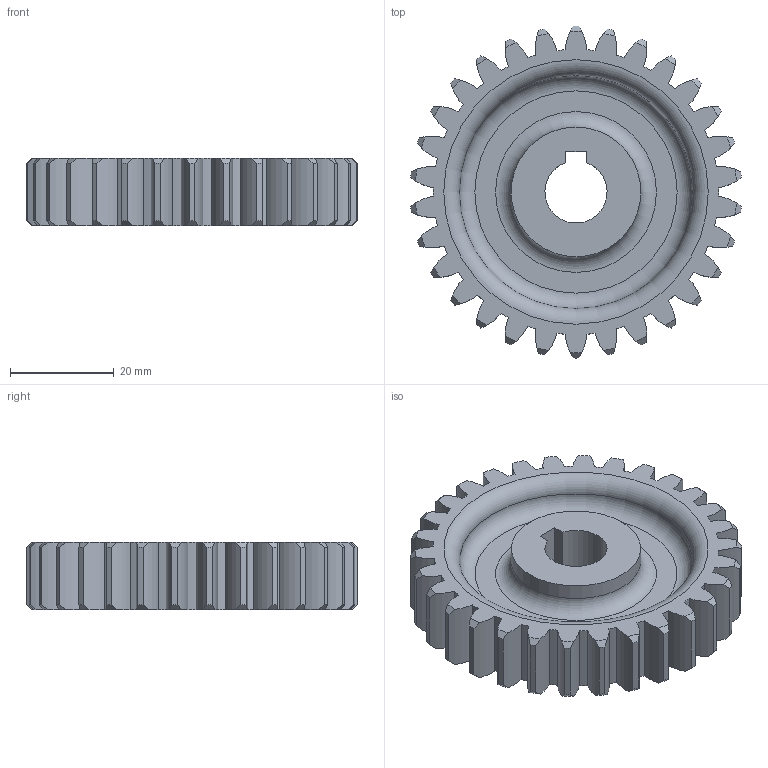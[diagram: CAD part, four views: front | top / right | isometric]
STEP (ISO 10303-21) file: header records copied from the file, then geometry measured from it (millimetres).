
FILE_DESCRIPTION(/* description */ (''),/* implementation_level */ '2;1');
FILE_NAME(/* name */ 'C:\Users\iamsam\Desktop\381209E1002\381209E1002-스퍼기어.stp',/* time_stamp */ '2018-12-08T10:22:53+09:00',/* author */ ('iamsam'),/* organization */ (''),/* preprocessor_version */ 'ST-DEVELOPER v15.6',/* originating_system */ 'Autodesk Inventor 2015',/* authorisation */ '');
FILE_SCHEMA (('AUTOMOTIVE_DESIGN { 1 0 10303 214 3 1 1 }'));
Length unit declared in the file: millimetre
Products named in the file (1): 381209E1002-스퍼기어
Bounding box: 63.76 x 64 x 13 mm (x, y, z)
Volume: 28223.7 mm3; surface area: 11504.6 mm2
Topology: 1 solids, 1 shells, 193 faces, 565 edges, 376 vertices
Faces by surface type: cylinder 122, cone 61, plane 7, torus 3
Full cylindrical faces by diameter (mm): 25 x1
Entity records: 6698 total; most frequent: CARTESIAN_POINT 1495, DIRECTION 1136, ORIENTED_EDGE 1122, EDGE_CURVE 561, AXIS2_PLACEMENT_3D 503, VERTEX_POINT 376, CIRCLE 309, EDGE_LOOP 201
